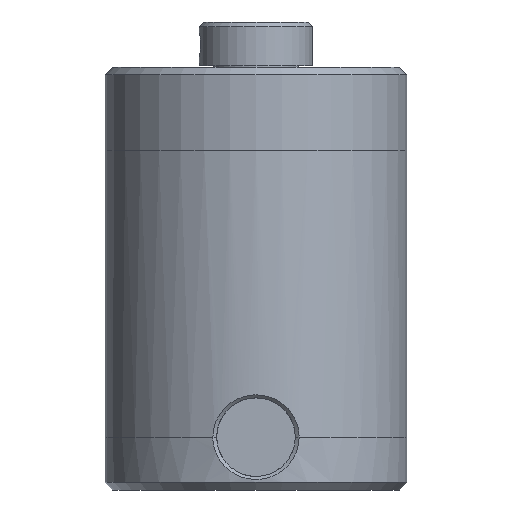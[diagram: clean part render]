
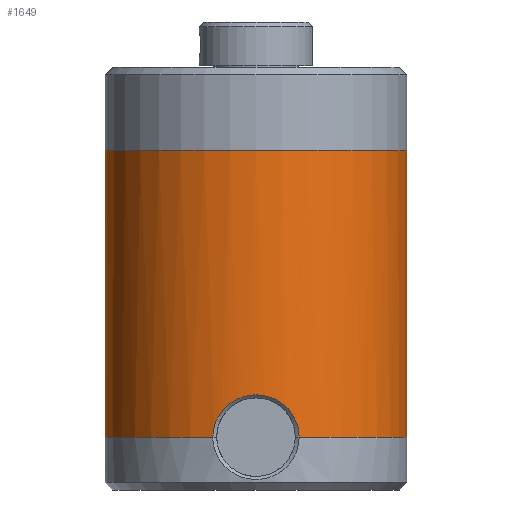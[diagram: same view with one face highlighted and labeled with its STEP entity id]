
A CAD part, front view. The second image highlights one B-rep face of the part: STEP entity #1649.
In plain terms, the highlighted cylindrical face has radius 10 mm (diameter 20 mm), a partial arc.
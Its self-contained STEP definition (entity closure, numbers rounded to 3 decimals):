
#2 = CARTESIAN_POINT ( 'NONE',  ( -2.839, -9.589, -27.134 ) ) ;
#102 = CARTESIAN_POINT ( 'NONE',  ( 0., 0., -27.5 ) ) ;
#147 = CARTESIAN_POINT ( 'NONE',  ( 2.284, -9.739, -25.778 ) ) ;
#423 = CIRCLE ( 'NONE', #4566, 10. ) ;
#430 = CARTESIAN_POINT ( 'NONE',  ( 10., 0., -8.5 ) ) ;
#457 = CARTESIAN_POINT ( 'NONE',  ( -2.71, -9.626, -26.594 ) ) ;
#499 = ORIENTED_EDGE ( 'NONE', *, *, #1723, .F. ) ;
#555 = DIRECTION ( 'NONE',  ( -1., 0., 0. ) ) ;
#566 = FACE_OUTER_BOUND ( 'NONE', #3807, .T. ) ;
#578 = CARTESIAN_POINT ( 'NONE',  ( -0.377, -10., -24.7 ) ) ;
#601 = CARTESIAN_POINT ( 'NONE',  ( 2.674, -9.636, -26.51 ) ) ;
#726 = LINE ( 'NONE', #3249, #5163 ) ;
#810 = CARTESIAN_POINT ( 'NONE',  ( -2.857, -9.583, -27.5 ) ) ;
#906 = CARTESIAN_POINT ( 'NONE',  ( -2.477, -9.689, -26.093 ) ) ;
#1025 = CARTESIAN_POINT ( 'NONE',  ( 0.376, -9.995, -24.718 ) ) ;
#1049 = CARTESIAN_POINT ( 'NONE',  ( 2.761, -9.611, -26.773 ) ) ;
#1265 = VERTEX_POINT ( 'NONE', #1980 ) ;
#1356 = CARTESIAN_POINT ( 'NONE',  ( -2.153, -9.767, -25.65 ) ) ;
#1370 = EDGE_CURVE ( 'NONE', #2007, #4172, #5126, .T. ) ;
#1409 = CARTESIAN_POINT ( 'NONE',  ( 0., 0., -27.5 ) ) ;
#1470 = CARTESIAN_POINT ( 'NONE',  ( 0.742, -9.973, -24.795 ) ) ;
#1494 = CARTESIAN_POINT ( 'NONE',  ( 2.839, -9.589, -27.133 ) ) ;
#1546 = B_SPLINE_CURVE_WITH_KNOTS ( 'NONE', 3,
 ( #4896, #1789, #2, #3130, #457, #3573, #906, #4024, #1356, #4479, #1805, #4914, #4254, #3254, #578, #3693, #1025, #4142, #1470, #4599, #1935, #5027, #2379, #5461, #2827, #147, #3279, #601, #3719, #1049, #4167, #1494, #4623, #1957 ),
 .UNSPECIFIED., .F., .F.,
 ( 4, 2, 2, 2, 2, 2, 2, 2, 2, 2, 2, 2, 2, 2, 2, 2, 4 ),
 ( 0., 0.063, 0.125, 0.188, 0.25, 0.313, 0.375, 0.5, 0.563, 0.594, 0.625, 0.688, 0.75, 0.875, 0.906, 0.938, 1. ),
 .UNSPECIFIED. ) ;
#1560 = CARTESIAN_POINT ( 'NONE',  ( -10., 0., -27.5 ) ) ;
#1620 = EDGE_CURVE ( 'NONE', #1265, #2266, #726, .T. ) ;
#1649 = ADVANCED_FACE ( 'NONE', ( #566 ), #5012, .T. ) ;
#1652 = EDGE_CURVE ( 'NONE', #3073, #2007, #423, .T. ) ;
#1712 = VECTOR ( 'NONE', #3184, 1000. ) ;
#1723 = EDGE_CURVE ( 'NONE', #1265, #3315, #2661, .T. ) ;
#1789 = CARTESIAN_POINT ( 'NONE',  ( -2.857, -9.583, -27.316 ) ) ;
#1805 = CARTESIAN_POINT ( 'NONE',  ( -1.743, -9.848, -25.274 ) ) ;
#1863 = DIRECTION ( 'NONE',  ( -1., 0., 0. ) ) ;
#1935 = CARTESIAN_POINT ( 'NONE',  ( 1.012, -9.949, -24.88 ) ) ;
#1957 = CARTESIAN_POINT ( 'NONE',  ( 2.857, -9.583, -27.5 ) ) ;
#1980 = CARTESIAN_POINT ( 'NONE',  ( 10., 0., -27.5 ) ) ;
#1983 = CIRCLE ( 'NONE', #3929, 10. ) ;
#2007 = VERTEX_POINT ( 'NONE', #1560 ) ;
#2045 = EDGE_CURVE ( 'NONE', #2266, #4172, #1983, .T. ) ;
#2171 = EDGE_CURVE ( 'NONE', #3073, #3315, #1546, .T. ) ;
#2266 = VERTEX_POINT ( 'NONE', #430 ) ;
#2379 = CARTESIAN_POINT ( 'NONE',  ( 1.434, -9.898, -25.071 ) ) ;
#2540 = ORIENTED_EDGE ( 'NONE', *, *, #1370, .F. ) ;
#2615 = CARTESIAN_POINT ( 'NONE',  ( 0., 0., -8.5 ) ) ;
#2661 = CIRCLE ( 'NONE', #4423, 10. ) ;
#2735 = CARTESIAN_POINT ( 'NONE',  ( -10., 0., -27.5 ) ) ;
#2737 = DIRECTION ( 'NONE',  ( 1., 0., 0. ) ) ;
#2827 = CARTESIAN_POINT ( 'NONE',  ( 1.89, -9.821, -25.393 ) ) ;
#3060 = DIRECTION ( 'NONE',  ( -1., 0., 0. ) ) ;
#3073 = VERTEX_POINT ( 'NONE', #810 ) ;
#3075 = ORIENTED_EDGE ( 'NONE', *, *, #1620, .T. ) ;
#3130 = CARTESIAN_POINT ( 'NONE',  ( -2.765, -9.61, -26.771 ) ) ;
#3184 = DIRECTION ( 'NONE',  ( 0., 0., 1. ) ) ;
#3229 = DIRECTION ( 'NONE',  ( 0., 0., -1. ) ) ;
#3249 = CARTESIAN_POINT ( 'NONE',  ( 10., 0., -27.5 ) ) ;
#3254 = CARTESIAN_POINT ( 'NONE',  ( -0.749, -9.978, -24.773 ) ) ;
#3279 = CARTESIAN_POINT ( 'NONE',  ( 2.495, -9.685, -26.087 ) ) ;
#3315 = VERTEX_POINT ( 'NONE', #3523 ) ;
#3453 = ORIENTED_EDGE ( 'NONE', *, *, #2171, .T. ) ;
#3523 = CARTESIAN_POINT ( 'NONE',  ( 2.857, -9.583, -27.5 ) ) ;
#3573 = CARTESIAN_POINT ( 'NONE',  ( -2.567, -9.665, -26.257 ) ) ;
#3693 = CARTESIAN_POINT ( 'NONE',  ( 0.189, -10., -24.7 ) ) ;
#3719 = CARTESIAN_POINT ( 'NONE',  ( 2.706, -9.627, -26.595 ) ) ;
#3807 = EDGE_LOOP ( 'NONE', ( #2540, #4038, #3453, #499, #3075, #4726 ) ) ;
#3929 = AXIS2_PLACEMENT_3D ( 'NONE', #2615, #5683, #3060 ) ;
#4024 = CARTESIAN_POINT ( 'NONE',  ( -2.27, -9.739, -25.79 ) ) ;
#4038 = ORIENTED_EDGE ( 'NONE', *, *, #1652, .F. ) ;
#4142 = CARTESIAN_POINT ( 'NONE',  ( 0.652, -9.979, -24.772 ) ) ;
#4167 = CARTESIAN_POINT ( 'NONE',  ( 2.784, -9.605, -26.863 ) ) ;
#4172 = VERTEX_POINT ( 'NONE', #4901 ) ;
#4254 = CARTESIAN_POINT ( 'NONE',  ( -1.271, -9.92, -24.986 ) ) ;
#4423 = AXIS2_PLACEMENT_3D ( 'NONE', #102, #3229, #555 ) ;
#4479 = CARTESIAN_POINT ( 'NONE',  ( -1.889, -9.821, -25.391 ) ) ;
#4514 = CARTESIAN_POINT ( 'NONE',  ( 0., 0., -27.5 ) ) ;
#4533 = DIRECTION ( 'NONE',  ( 0., 0., -1. ) ) ;
#4534 = AXIS2_PLACEMENT_3D ( 'NONE', #4514, #5378, #2737 ) ;
#4566 = AXIS2_PLACEMENT_3D ( 'NONE', #1409, #4533, #1863 ) ;
#4599 = CARTESIAN_POINT ( 'NONE',  ( 0.922, -9.958, -24.848 ) ) ;
#4623 = CARTESIAN_POINT ( 'NONE',  ( 2.857, -9.583, -27.316 ) ) ;
#4726 = ORIENTED_EDGE ( 'NONE', *, *, #2045, .T. ) ;
#4896 = CARTESIAN_POINT ( 'NONE',  ( -2.857, -9.583, -27.5 ) ) ;
#4901 = CARTESIAN_POINT ( 'NONE',  ( -10., 0., -8.5 ) ) ;
#4914 = CARTESIAN_POINT ( 'NONE',  ( -1.434, -9.898, -25.071 ) ) ;
#4980 = DIRECTION ( 'NONE',  ( 0., 0., 1. ) ) ;
#5012 = CYLINDRICAL_SURFACE ( 'NONE', #4534, 10. ) ;
#5027 = CARTESIAN_POINT ( 'NONE',  ( 1.27, -9.921, -24.985 ) ) ;
#5126 = LINE ( 'NONE', #2735, #1712 ) ;
#5163 = VECTOR ( 'NONE', #4980, 1000. ) ;
#5378 = DIRECTION ( 'NONE',  ( 0., 0., 1. ) ) ;
#5461 = CARTESIAN_POINT ( 'NONE',  ( 1.745, -9.848, -25.275 ) ) ;
#5683 = DIRECTION ( 'NONE',  ( 0., 0., -1. ) ) ;
